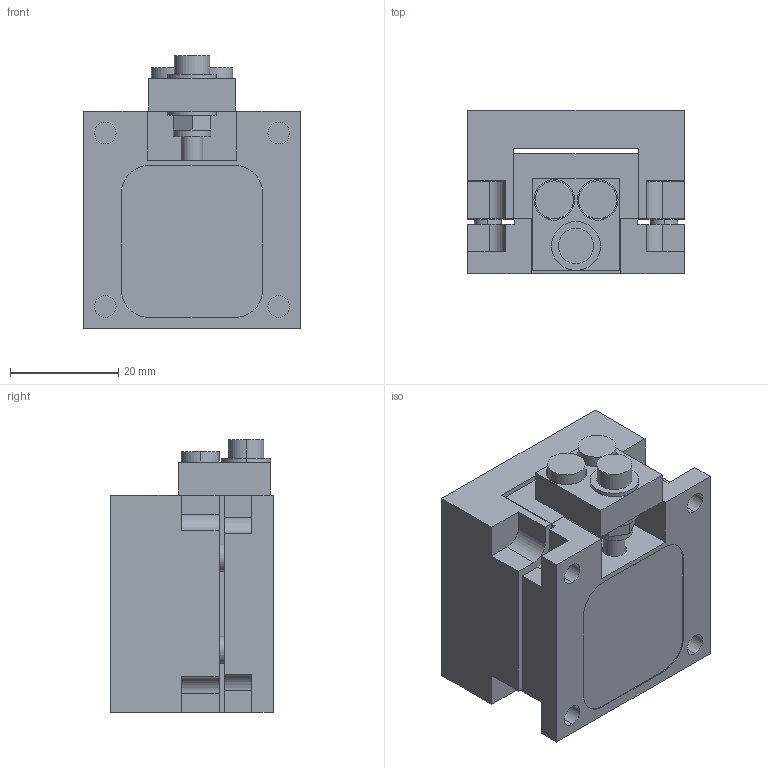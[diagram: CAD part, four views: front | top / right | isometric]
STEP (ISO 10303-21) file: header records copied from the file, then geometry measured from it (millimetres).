
FILE_DESCRIPTION (( 'STEP AP203' ), '1' );
FILE_NAME ('LV-4051FX.STEP', '2017-02-28T01:26:44', ( '' ), ( '' ), 'SwSTEP 2.0', 'SolidWorks 2016', '' );
FILE_SCHEMA (( 'CONFIG_CONTROL_DESIGN' ));
Length unit declared in the file: millimetre
Products named in the file (4): LV-4051FX-1; LV-4051FX-2; LV-4051FX-3; LV-4051FX
Assembly tree (3 placements, depth 2):
  LV-4051FX
    LV-4051FX-1
    LV-4051FX-2
    LV-4051FX-3
Bounding box: 40 x 30 x 50.26 mm (x, y, z)
Volume: 42337.9 mm3; surface area: 19055.3 mm2
Topology: 3 solids, 3 shells, 197 faces, 470 edges, 312 vertices
Faces by surface type: plane 105, cylinder 92
Entity records: 6200 total; most frequent: DIRECTION 1062, CARTESIAN_POINT 985, ORIENTED_EDGE 940, EDGE_CURVE 470, AXIS2_PLACEMENT_3D 389, VERTEX_POINT 312, VECTOR 284, LINE 284
